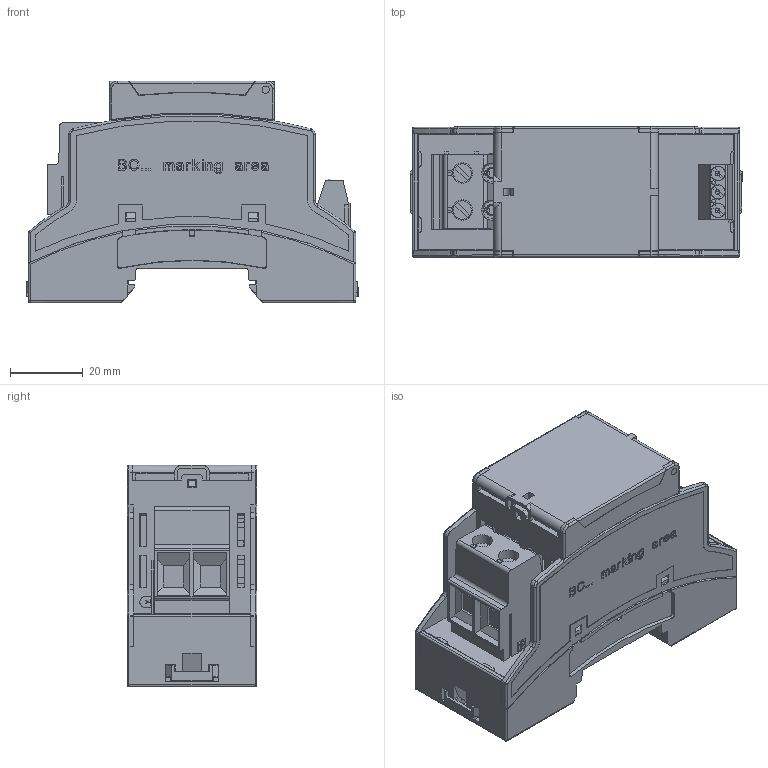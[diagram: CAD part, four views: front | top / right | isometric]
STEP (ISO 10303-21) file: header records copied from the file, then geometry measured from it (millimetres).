
FILE_DESCRIPTION(/* description */ (''),/* implementation_level */ '2;1');
FILE_NAME(/* name */ '003 centr_.step',/* time_stamp */ '2023-07-21T08:51:22+02:00',/* author */ (''),/* organization */ (''),/* preprocessor_version */ 'ST-DEVELOPER v19.2',/* originating_system */ 'Autodesk Translation Framework v12.6.0.85',/* authorisation */ '');
FILE_SCHEMA (('AUTOMOTIVE_DESIGN { 1 0 10303 214 3 1 1 }'));
Products named in the file (11): 003 centré; 2896254; 2896254_1; 2896047; 2896047_1; 1715734; 1715734_1; 2896115; 2896115_1; 1773976; 1773976_1
Assembly tree (10 placements, depth 3):
  003 centré
    2896254
      2896254_1
    2896047
      2896047_1
    1715734
      1715734_1
    2896115
      2896115_1
    1773976
      1773976_1
Bounding box: 91 x 35.6 x 60.7 mm (x, y, z)
Volume: 68445.2 mm3; surface area: 95913 mm2
Topology: 21 solids, 21 shells, 10041 faces, 28951 edges, 19243 vertices
Faces by surface type: plane 9650, cylinder 333, torus 24, cone 24, sphere 10
Full cylindrical faces by diameter (mm): 0.457 x1, 0.609 x1, 1 x36, 1.3 x3, 1.5 x5, 2 x4, 2.4 x6, 3 x6, 3.783 x3, 4 x3, 5 x2, 5.6 x2, 7 x1
Entity records: 325643 total; most frequent: CARTESIAN_POINT 58976, ORIENTED_EDGE 57886, DIRECTION 50014, EDGE_CURVE 28943, LINE 27948, VECTOR 27948, VERTEX_POINT 19243, AXIS2_PLACEMENT_3D 11033
